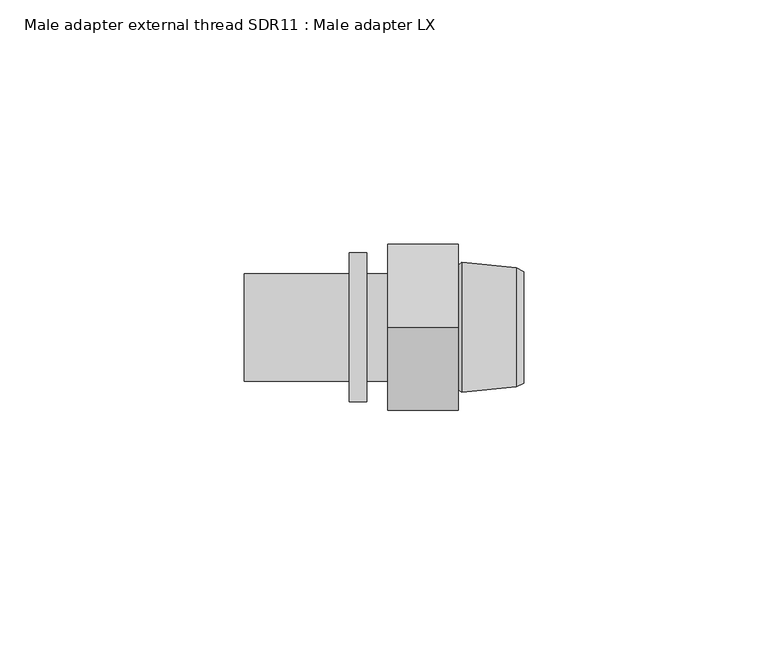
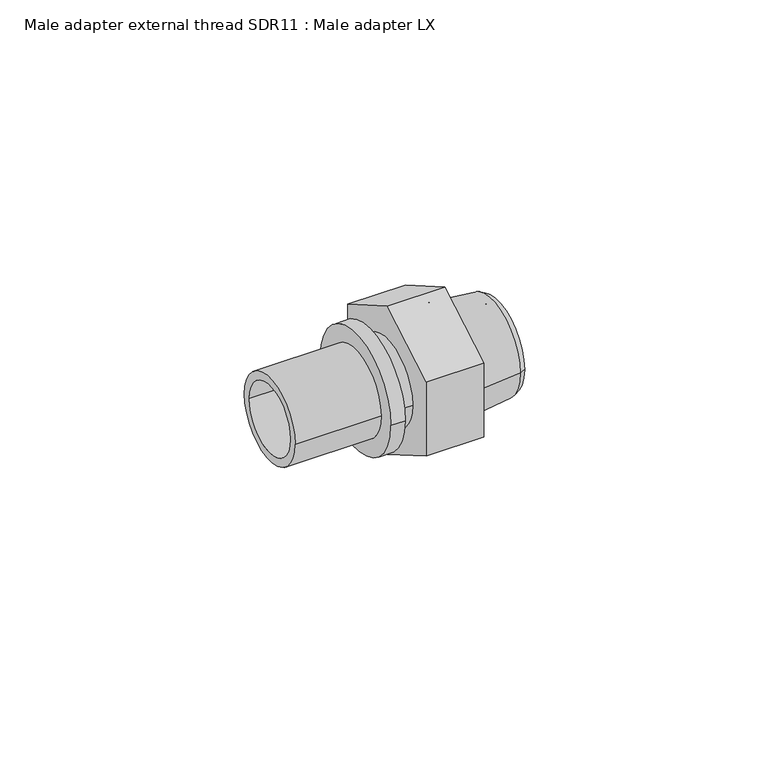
"""IFC4 building model written with IfcOpenShell, lengths in millimetres: pipe fitting geometry, Male adapter external thread SDR11 : Male adapter LX."""

from ifc_helpers import new_model, si_unit, frame, origin, place, context, project, spatial, polyline, circle_curve, outline, extrude, source, transform, mapped, element, save
from ifc_brep_helpers import plane_surface, cylinder_surface, revolved_surface, advanced_brep


def male_adapter_external_thread_sdr11_male_adapter_lx_0d78ced2(model_context):
    return source(origin(), model_context, "Body", "SolidModel", [
        advanced_brep(
        [(-7.9, 11.0, 0.0), (-7.9, -11.0, 0.0), (-29.4, -11.0, 0.0), (-29.4, 11.0, 0.0), (-4.3, 15.25, 0.0), (-4.3, -15.25, 0.0), (-7.9, -15.25, 0.0), (-7.9, 15.25, 0.0), (0.0, 11.0, 0.0), (0.0, -11.0, 0.0), (-4.3, -11.0, 0.0), (-4.3, 11.0, 0.0), (-29.4, 8.9, 0.0), (-29.4, -8.9, 0.0), (0.0, -8.9, 0.0), (0.0, 8.9, 0.0)],
        [
            (0, 1, circle_curve(frame((-7.9, 0.0, 0.0), z_axis=(-1.0, 0.0, 0.0), x_axis=(0.0, -1.0, 0.0)), 11.0)),
            (1, 2),
            (2, 3, circle_curve(frame((-29.4, 0.0, 0.0), z_axis=(1.0, 0.0, 0.0), x_axis=(0.0, -1.0, 0.0)), 11.0)),
            (3, 0),
            (4, 5, circle_curve(frame((-4.3, 0.0, 0.0), z_axis=(-1.0, 0.0, 0.0), x_axis=(0.0, -1.0, 0.0)), 15.25)),
            (5, 6),
            (6, 7, circle_curve(frame((-7.9, 0.0, 0.0), z_axis=(1.0, 0.0, 0.0), x_axis=(0.0, -1.0, 0.0)), 15.25)),
            (7, 4),
            (8, 9, circle_curve(frame((0.0, 0.0, 0.0), z_axis=(-1.0, 0.0, 0.0), x_axis=(0.0, -1.0, 0.0)), 11.0)),
            (9, 10),
            (10, 11, circle_curve(frame((-4.3, 0.0, 0.0), z_axis=(1.0, 0.0, 0.0), x_axis=(0.0, -1.0, 0.0)), 11.0)),
            (11, 8),
            (12, 13, circle_curve(frame((-29.4, 0.0, 0.0), z_axis=(-1.0, 0.0, 0.0), x_axis=(0.0, -1.0, 0.0)), 8.9)),
            (13, 14),
            (14, 15, circle_curve(frame((0.0, 0.0, 0.0), z_axis=(1.0, 0.0, 0.0), x_axis=(0.0, -1.0, 0.0)), 8.9)),
            (15, 12),
            (2, 3, circle_curve(frame((-29.4, 0.0, 0.0), z_axis=(-1.0, 0.0, 0.0), x_axis=(0.0, 1.0, 0.0)), 11.0)),
            (12, 13, circle_curve(frame((-29.4, 0.0, 0.0), z_axis=(1.0, 0.0, 0.0), x_axis=(0.0, 1.0, 0.0)), 8.9)),
            (1, 0, circle_curve(frame((-7.9, 0.0, 0.0), z_axis=(-1.0, 0.0, 0.0), x_axis=(0.0, 1.0, 0.0)), 11.0)),
            (6, 7, circle_curve(frame((-7.9, 0.0, 0.0), z_axis=(-1.0, 0.0, 0.0), x_axis=(0.0, 1.0, 0.0)), 15.25)),
            (5, 4, circle_curve(frame((-4.3, 0.0, 0.0), z_axis=(-1.0, 0.0, 0.0), x_axis=(0.0, 1.0, 0.0)), 15.25)),
            (10, 11, circle_curve(frame((-4.3, 0.0, 0.0), z_axis=(-1.0, 0.0, 0.0), x_axis=(0.0, 1.0, 0.0)), 11.0)),
            (9, 8, circle_curve(frame((0.0, 0.0, 0.0), z_axis=(-1.0, 0.0, 0.0), x_axis=(0.0, 1.0, 0.0)), 11.0)),
            (14, 15, circle_curve(frame((0.0, 0.0, 0.0), z_axis=(-1.0, 0.0, 0.0), x_axis=(0.0, 1.0, 0.0)), 8.9)),
        ],
        [
            cylinder_surface(frame((0.0, 0.0, 0.0), z_axis=(1.0, 0.0, 0.0), x_axis=(0.0, -1.0, 0.0)), 11.0),
            cylinder_surface(frame((0.0, 0.0, 0.0), z_axis=(1.0, 0.0, 0.0), x_axis=(0.0, -1.0, 0.0)), 15.25),
            revolved_surface(polyline([(0.0, -8.9, 0.0), (-29.4, -8.9, 0.0)]), (0.0, 0.0, 0.0), (1.0, 0.0, 0.0)),
            plane_surface(frame((-29.4, 0.0, 0.0), z_axis=(-1.0, 0.0, 0.0), x_axis=(0.0, 1.0, 0.0))),
            cylinder_surface(frame((0.0, 0.0, 0.0), z_axis=(1.0, 0.0, 0.0), x_axis=(0.0, 1.0, 0.0)), 11.0),
            plane_surface(frame((-7.9, 0.0, 0.0), z_axis=(-1.0, 0.0, 0.0), x_axis=(0.0, 1.0, 0.0))),
            cylinder_surface(frame((0.0, 0.0, 0.0), z_axis=(1.0, 0.0, 0.0), x_axis=(0.0, 1.0, 0.0)), 15.25),
            plane_surface(frame((-4.3, 0.0, 0.0), z_axis=(1.0, 0.0, 0.0), x_axis=(0.0, 1.0, 0.0))),
            plane_surface(frame((0.0, 0.0, 0.0), z_axis=(1.0, 0.0, 0.0), x_axis=(0.0, 1.0, 0.0))),
            revolved_surface(polyline([(0.0, 8.9, 0.0), (-29.4, 8.9, 0.0)]), (0.0, 0.0, 0.0), (1.0, 0.0, 0.0)),
        ],
        [
            (0, [[1, 2, 3, 4]]),
            (1, [[5, 6, 7, 8]]),
            (0, [[9, 10, 11, 12]]),
            (2, [[13, 14, 15, 16]]),
            (3, [[17, -3], [18, -13]]),
            (4, [[19, -4, -17, -2]]),
            (5, [[20, -7], [-19, -1]]),
            (6, [[21, -8, -20, -6]]),
            (7, [[-21, -5], [22, -11]]),
            (4, [[23, -12, -22, -10]]),
            (8, [[-23, -9], [24, -15]]),
            (9, [[-18, -16, -24, -14]]),
        ],
    ),
        advanced_brep(
        [(15.5032803, 8.9, 0.0), (15.5032803, -8.9, 0.0), (27.8, -8.9, 0.0), (27.8, 8.9, 0.0), (14.4, 7.7967197, 0.0), (14.4, -7.7967197, 0.0), (15.1406902, 13.3, 0.0), (15.1406902, -13.3, 0.0), (14.4, -12.75, 0.0), (14.4, 12.75, 0.0), (26.3000007, 12.15, 0.0), (26.3000007, -12.15, 0.0), (27.8, 11.4, 0.0), (27.8, -11.4, 0.0)],
        [
            (0, 1, circle_curve(frame((15.5032803, 0.0, 0.0), z_axis=(-1.0, 0.0, 0.0), x_axis=(0.0, -1.0, 0.0)), 8.9)),
            (1, 2),
            (2, 3, circle_curve(frame((27.8, 0.0, 0.0), z_axis=(1.0, 0.0, 0.0), x_axis=(0.0, -1.0, 0.0)), 8.9)),
            (3, 0),
            (4, 5, circle_curve(frame((14.4, 0.0, 0.0), z_axis=(-1.0, 0.0, 0.0), x_axis=(0.0, -1.0, 0.0)), 7.7967197)),
            (5, 1),
            (0, 4),
            (6, 7, circle_curve(frame((15.1406902, 0.0, 0.0), z_axis=(-1.0, 0.0, 0.0), x_axis=(0.0, -1.0, 0.0)), 13.3)),
            (7, 8),
            (8, 9, circle_curve(frame((14.4, 0.0, 0.0), z_axis=(1.0, 0.0, 0.0), x_axis=(0.0, -1.0, 0.0)), 12.75)),
            (9, 6),
            (10, 11, circle_curve(frame((26.3000007, 0.0, 0.0), z_axis=(-1.0, 0.0, 0.0), x_axis=(0.0, -1.0, 0.0)), 12.15)),
            (11, 7),
            (6, 10),
            (12, 13, circle_curve(frame((27.8, 0.0, 0.0), z_axis=(-1.0, 0.0, 0.0), x_axis=(0.0, -1.0, 0.0)), 11.4)),
            (13, 11),
            (10, 12),
            (1, 0, circle_curve(frame((15.5032803, 0.0, 0.0), z_axis=(-1.0, 0.0, 0.0), x_axis=(0.0, 1.0, 0.0)), 8.9)),
            (3, 2, circle_curve(frame((27.8, 0.0, 0.0), z_axis=(1.0, 0.0, 0.0), x_axis=(0.0, 1.0, 0.0)), 8.9)),
            (5, 4, circle_curve(frame((14.4, 0.0, 0.0), z_axis=(-1.0, 0.0, 0.0), x_axis=(0.0, 1.0, 0.0)), 7.7967197)),
            (8, 9, circle_curve(frame((14.4, 0.0, 0.0), z_axis=(-1.0, 0.0, 0.0), x_axis=(0.0, 1.0, 0.0)), 12.75)),
            (7, 6, circle_curve(frame((15.1406902, 0.0, 0.0), z_axis=(-1.0, 0.0, 0.0), x_axis=(0.0, 1.0, 0.0)), 13.3)),
            (11, 10, circle_curve(frame((26.3000007, 0.0, 0.0), z_axis=(-1.0, 0.0, 0.0), x_axis=(0.0, 1.0, 0.0)), 12.15)),
            (13, 12, circle_curve(frame((27.8, 0.0, 0.0), z_axis=(-1.0, 0.0, 0.0), x_axis=(0.0, 1.0, 0.0)), 11.4)),
        ],
        [
            revolved_surface(polyline([(27.8, -8.9, 0.0), (15.5032803, -8.9, 0.0)]), (0.0, 0.0, 0.0), (1.0, 0.0, 0.0)),
            revolved_surface(polyline([(15.5032803, -8.9, 0.0), (14.4, -7.7967197, 0.0)]), (0.0, 0.0, 0.0), (1.0, 0.0, 0.0)),
            revolved_surface(polyline([(14.4, -12.75, 0.0), (15.1406902, -13.3, 0.0)]), (0.0, 0.0, 0.0), (1.0, 0.0, 0.0)),
            revolved_surface(polyline([(15.1406902, -13.3, 0.0), (26.3000007, -12.15, 0.0)]), (0.0, 0.0, 0.0), (1.0, 0.0, 0.0)),
            revolved_surface(polyline([(26.3000007, -12.15, 0.0), (27.8, -11.4, 0.0)]), (0.0, 0.0, 0.0), (1.0, 0.0, 0.0)),
            revolved_surface(polyline([(27.8, 8.9, 0.0), (15.5032803, 8.9, 0.0)]), (0.0, 0.0, 0.0), (1.0, 0.0, 0.0)),
            revolved_surface(polyline([(15.5032803, 8.9, 0.0), (14.4, 7.7967197, 0.0)]), (0.0, 0.0, 0.0), (1.0, 0.0, 0.0)),
            plane_surface(frame((14.4, 0.0, 0.0), z_axis=(-1.0, 0.0, 0.0), x_axis=(0.0, 1.0, 0.0))),
            revolved_surface(polyline([(14.4, 12.75, 0.0), (15.1406902, 13.3, 0.0)]), (0.0, 0.0, 0.0), (1.0, 0.0, 0.0)),
            revolved_surface(polyline([(15.1406902, 13.3, 0.0), (26.3000007, 12.15, 0.0)]), (0.0, 0.0, 0.0), (1.0, 0.0, 0.0)),
            revolved_surface(polyline([(26.3000007, 12.15, 0.0), (27.8, 11.4, 0.0)]), (0.0, 0.0, 0.0), (1.0, 0.0, 0.0)),
            plane_surface(frame((27.8, 0.0, 0.0), z_axis=(1.0, 0.0, 0.0), x_axis=(0.0, 1.0, 0.0))),
        ],
        [
            (0, [[1, 2, 3, 4]]),
            (1, [[5, 6, -1, 7]]),
            (2, [[8, 9, 10, 11]]),
            (3, [[12, 13, -8, 14]]),
            (4, [[15, 16, -12, 17]]),
            (5, [[18, -4, 19, -2]]),
            (6, [[20, -7, -18, -6]]),
            (7, [[21, -10], [-20, -5]]),
            (8, [[22, -11, -21, -9]]),
            (9, [[23, -14, -22, -13]]),
            (10, [[24, -17, -23, -16]]),
            (11, [[-24, -15], [-19, -3]]),
        ],
    ),
        extrude(outline(polyline([(-17.0, 9.8149546), (0.0, 19.6299092), (17.0, 9.8149546), (17.0, -9.8149546), (0.0, -19.6299092), (-17.0, -9.8149546), (-17.0, 9.8149546)])), frame((0.0, 0.0, 0.0), z_axis=(1.0, 0.0, 0.0), x_axis=(0.0, 1.0, 0.0)), (0.0, 0.0, 1.0), 14.4),
    ])


if __name__ == "__main__":
    model = new_model("IFC4")
    model_context = context("Model", 3, world=origin())
    ifc_project = project(units=[si_unit("LENGTHUNIT", "METRE", prefix="MILLI")], contexts=[model_context])
    site = spatial("IfcSite", under=ifc_project)
    building = spatial("IfcBuilding", under=site)
    placement = place(None, origin())
    male_adapter_external_thread_sdr11_male_adapter_lx_shape = male_adapter_external_thread_sdr11_male_adapter_lx_0d78ced2(model_context)
    element("IfcPipeFitting", 1, ObjectType="Male adapter external thread SDR11 : Male adapter LX", at=placement, inside=building, context=model_context, shape_type="MappedRepresentation", body=[
        mapped(male_adapter_external_thread_sdr11_male_adapter_lx_shape, transform((0.0, 0.0, 0.0), x_axis=(1.0, 0.0, 0.0), y_axis=(0.0, 1.0, 0.0), z_axis=(0.0, 0.0, 1.0))),
    ])
    save(model, "model.ifc")
